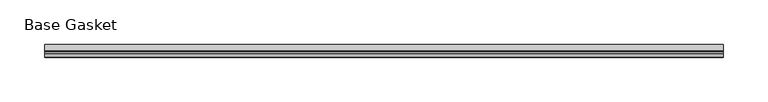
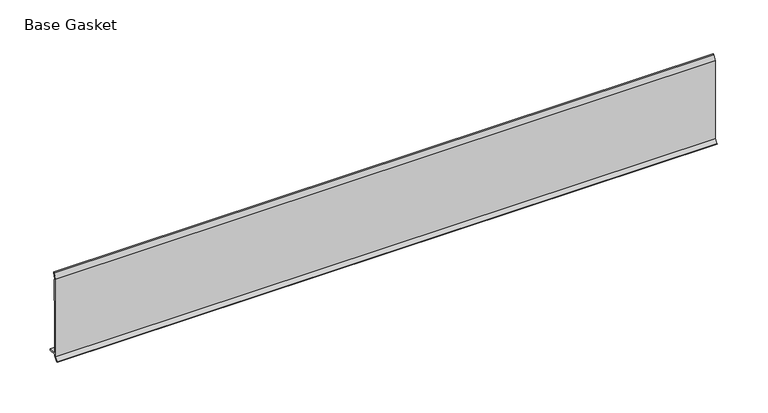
"""IFC4 building model written with IfcOpenShell, lengths in millimetres: furniture geometry, Gasket-Teknion-FHGB-AI_Healthcare-R2021 : Base Gasket."""

import ifcopenshell
import ifcopenshell.guid

model = None  # the IFC model being written
_history = None  # IfcOwnerHistory: only IFC2X3 demands one
_inside = {}  # id of a spatial element -> (the spatial element, [elements in it])
_under = {}  # id of a project, library or spatial element -> (it, [spatial elements below it])
_declared = {}  # id of a project -> (the project, [libraries it declares])
_typed = {}  # id of a type object -> (the type object, [elements of that type])
_made_of = {}  # id of a material, layer set ... -> (it, [elements and type objects made of it])


def new_model(schema):
    """Start an empty IFC model of exactly this schema.

    Asked for "IFC4X3", IfcOpenShell would pick the latest addendum, in which some entities
    have other attributes; the version numbers below select the first issue.
    IFC2X3 requires an IfcOwnerHistory on every rooted entity: one is made here for all.
    """
    global model, _history
    if schema == "IFC4X3":
        model = ifcopenshell.file(schema_version=(4, 3, 0, 0))
    else:
        model = ifcopenshell.file(schema=schema)
    _inside.clear()
    _under.clear()
    _declared.clear()
    _typed.clear()
    _made_of.clear()
    _history = None
    if model.schema == "IFC2X3":
        org = make("IfcOrganization", Name="unknown")
        user = make(
            "IfcPersonAndOrganization",
            ThePerson=make("IfcPerson", FamilyName="unknown"),
            TheOrganization=org,
        )
        app = make(
            "IfcApplication",
            ApplicationDeveloper=org,
            Version="unknown",
            ApplicationFullName="unknown",
            ApplicationIdentifier="unknown",
        )
        _history = make(
            "IfcOwnerHistory",
            OwningUser=user,
            OwningApplication=app,
            ChangeAction="ADDED",
            CreationDate=0,
        )
    return model


def make(cls, **values):
    """One entity of the class cls with the attributes given. An attribute that is None is left unset."""
    return model.create_entity(
        cls, **{name: value for name, value in values.items() if value is not None}
    )


def rooted(cls, **values):
    """An entity with a GlobalId (a new one), such as an element, a storey or a relation."""
    return make(cls, GlobalId=ifcopenshell.guid.new(), OwnerHistory=_history, **values)


def si_unit(unit_type, name, prefix=None):
    """IfcSIUnit, for example si_unit("LENGTHUNIT", "METRE", prefix="MILLI")."""
    return make("IfcSIUnit", UnitType=unit_type, Prefix=prefix, Name=name)


def assignment(units):
    """IfcUnitAssignment: the units of a project."""
    return None if units is None else make("IfcUnitAssignment", Units=units)


def point(xyz):
    """IfcCartesianPoint."""
    return None if xyz is None else make("IfcCartesianPoint", Coordinates=xyz)


def direction(xyz):
    """IfcDirection."""
    return None if xyz is None else make("IfcDirection", DirectionRatios=xyz)


def frame(location, z_axis=None, x_axis=None):
    """IfcAxis2Placement3D, a coordinate frame: its origin and axes. An axis left out is left unset."""
    return make(
        "IfcAxis2Placement3D",
        Location=point(location),
        Axis=direction(z_axis),
        RefDirection=direction(x_axis),
    )


def origin():
    """The frame at (0, 0, 0) with its axes left unset."""
    return frame((0.0, 0.0, 0.0))


def place(relative_to, where):
    """IfcLocalPlacement: puts the frame where relative to a parent placement (None: the world)."""
    return make(
        "IfcLocalPlacement", PlacementRelTo=relative_to, RelativePlacement=where
    )


def context(
    kind, dimensions, precision=None, world=None, true_north=None, identifier=None
):
    """IfcGeometricRepresentationContext, for example the 3D "Model" context."""
    return make(
        "IfcGeometricRepresentationContext",
        ContextIdentifier=identifier,
        ContextType=kind,
        CoordinateSpaceDimension=dimensions,
        Precision=precision,
        WorldCoordinateSystem=world,
        TrueNorth=true_north,
    )


def project(units=None, contexts=None):
    """IfcProject with its units and contexts."""
    return rooted(
        "IfcProject",
        Name="project",
        RepresentationContexts=contexts,
        UnitsInContext=assignment(units),
    )


def spatial(cls, under=None, at=None, **own):
    """A site, building, storey or space (cls), placed at a placement, below another one or the project."""
    s = rooted(cls, ObjectPlacement=at, **own)
    if under is not None:
        _under.setdefault(under.id(), (under, []))[1].append(s)
    return s


def polyline(points):
    """IfcPolyline through the points."""
    return make("IfcPolyline", Points=[point(p) for p in points])


def outline(outer, holes=None, kind="AREA"):
    """IfcArbitraryClosedProfileDef: a profile drawn as a closed curve; with holes, ...WithVoids."""
    if holes is None:
        return make("IfcArbitraryClosedProfileDef", ProfileType=kind, OuterCurve=outer)
    return make(
        "IfcArbitraryProfileDefWithVoids",
        ProfileType=kind,
        OuterCurve=outer,
        InnerCurves=holes,
    )


def extrude(swept, where, along, depth):
    """IfcExtrudedAreaSolid: the profile swept, set in the frame where, extruded along a direction by depth."""
    return make(
        "IfcExtrudedAreaSolid",
        SweptArea=swept,
        Position=where,
        ExtrudedDirection=direction(along),
        Depth=depth,
    )


def shape(context_of_items, identifier, shape_type, items):
    """IfcShapeRepresentation: the items that make up one representation, for example the "Body"."""
    return make(
        "IfcShapeRepresentation",
        ContextOfItems=context_of_items,
        RepresentationIdentifier=identifier,
        RepresentationType=shape_type,
        Items=items,
    )


def source(mapping_origin, context_of_items, identifier, shape_type, items):
    """IfcRepresentationMap: a shape defined once, which mapped items show again and again."""
    return make(
        "IfcRepresentationMap",
        MappingOrigin=mapping_origin,
        MappedRepresentation=shape(context_of_items, identifier, shape_type, items),
    )


def transform(
    local_origin,
    x_axis=None,
    y_axis=None,
    z_axis=None,
    scale=None,
    scale2=None,
    scale3=None,
    uniform=True,
):
    """IfcCartesianTransformationOperator3D, or its non-uniform kind. x_axis, y_axis, z_axis: its Axis1, 2, 3."""
    if uniform:
        return make(
            "IfcCartesianTransformationOperator3D",
            Axis1=direction(x_axis),
            Axis2=direction(y_axis),
            LocalOrigin=point(local_origin),
            Scale=scale,
            Axis3=direction(z_axis),
        )
    return make(
        "IfcCartesianTransformationOperator3DnonUniform",
        Axis1=direction(x_axis),
        Axis2=direction(y_axis),
        LocalOrigin=point(local_origin),
        Scale=scale,
        Axis3=direction(z_axis),
        Scale2=scale2,
        Scale3=scale3,
    )


def mapped(mapping_source, mapping_target):
    """IfcMappedItem: shows the shape of a source again, moved by a transform."""
    return make(
        "IfcMappedItem", MappingSource=mapping_source, MappingTarget=mapping_target
    )


def made_of(thing, what):
    """Note that an element or type object is made of a material, layer set ...; save() writes the relation."""
    if what is not None:
        _made_of.setdefault(what.id(), (what, []))[1].append(thing)
    return thing


def element(
    cls,
    number,
    at=None,
    inside=None,
    cuts=None,
    type_object=None,
    material=None,
    context=None,
    identifier="Body",
    shape_type=None,
    held_by="IfcProductDefinitionShape",
    body=None,
    shapes=None,
    **own,
):
    """One element of the class cls, such as IfcWall. Its Tag is "e" and its number.

    at: its placement. inside: the storey or other place that contains it. cuts: it is an
    opening in that element (IfcRelVoidsElement). A single representation is given by context,
    identifier, shape_type and body (its items); several are given by shapes. held_by: the class
    of the entity that holds the representations. save() writes the other relations.
    """
    e = rooted(cls, Tag="e%d" % number, ObjectPlacement=at, **own)
    if body is not None:
        shapes = [shape(context, identifier, shape_type, body)]
    if shapes is not None:
        e.Representation = make(held_by, Representations=shapes)
    if inside is not None:
        _inside.setdefault(inside.id(), (inside, []))[1].append(e)
    if cuts is not None:
        rooted(
            "IfcRelVoidsElement", RelatingBuildingElement=cuts, RelatedOpeningElement=e
        )
    if type_object is not None:
        _typed.setdefault(type_object.id(), (type_object, []))[1].append(e)
    return made_of(e, material)


def aggregate(whole, parts):
    """IfcRelAggregates: a whole, such as a stair, and the parts it consists of."""
    return rooted("IfcRelAggregates", RelatingObject=whole, RelatedObjects=parts)


def save(model, path):
    """Write the relations noted so far, then the file.

    IfcRelAggregates (storeys below a building ...), IfcRelContainedInSpatialStructure (elements
    in a storey), IfcRelDefinesByType, IfcRelAssociatesMaterial and IfcRelDeclares: one each for
    every whole, place, type object, material and project.
    """
    for whole, parts in _under.values():
        aggregate(whole, parts)
    for where, things in _inside.values():
        rooted(
            "IfcRelContainedInSpatialStructure",
            RelatedElements=things,
            RelatingStructure=where,
        )
    for kind, things in _typed.values():
        rooted("IfcRelDefinesByType", RelatedObjects=things, RelatingType=kind)
    for what, things in _made_of.values():
        rooted("IfcRelAssociatesMaterial", RelatedObjects=things, RelatingMaterial=what)
    for by, libraries in _declared.values():
        rooted("IfcRelDeclares", RelatingContext=by, RelatedDefinitions=libraries)
    model.write(path)


def base_gasket_e8adc1d1(model_context):
    return source(origin(), model_context, "Body", "SweptSolid", [
        extrude(outline(polyline([(-3.7283812, 98.4568417), (-1.1891543, 104.587663), (-0.6755308, 105.2002997), (-0.6755308, 104.4162708), (-2.2043812, 98.4568417), (-2.2043812, 96.8693477), (-1.4106313, 96.8693477), (-1.4106313, 71.4693447), (-2.2043812, 71.4693447), (-2.2043812, 7.9398773), (6.2405171, 7.9398773), (6.2405171, 6.3818476), (-2.1334222, 6.3818476), (-2.2043812, 4.3498477), (-6.8281054, 0.3520979), (-7.8482342, 0.0), (-7.4222115, 0.6560174), (-3.7283812, 4.3498477), (-3.7283812, 98.4568417)])), frame((-1527.8982117, 0.0, 0.0), z_axis=(1.0, 0.0, 0.0), x_axis=(0.0, 1.0, 0.0)), (0.0, 0.0, 1.0), 756.2017997),
    ])


if __name__ == "__main__":
    model = new_model("IFC4")
    model_context = context("Model", 3, world=origin())
    ifc_project = project(units=[si_unit("LENGTHUNIT", "METRE", prefix="MILLI")], contexts=[model_context])
    site = spatial("IfcSite", under=ifc_project)
    building = spatial("IfcBuilding", under=site)
    placement = place(None, origin())
    base_gasket_shape = base_gasket_e8adc1d1(model_context)
    element("IfcFurniture", 1, ObjectType="Gasket-Teknion-FHGB-AI_Healthcare-R2021 : Base Gasket", at=placement, inside=building, context=model_context, shape_type="MappedRepresentation", body=[
        mapped(base_gasket_shape, transform((0.0, 0.0, 0.0), x_axis=(1.0, 0.0, 0.0), y_axis=(0.0, 1.0, 0.0), z_axis=(0.0, 0.0, 1.0))),
    ])
    save(model, "model.ifc")
